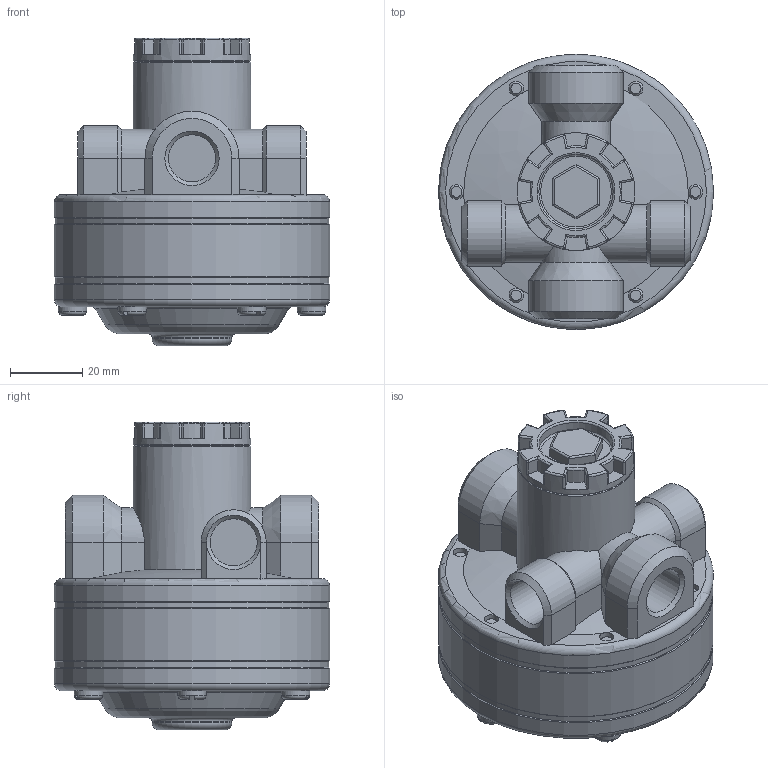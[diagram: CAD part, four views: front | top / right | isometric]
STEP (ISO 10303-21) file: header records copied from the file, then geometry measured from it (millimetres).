
FILE_DESCRIPTION(/* description */ (''),/* implementation_level */ '2;1');
FILE_NAME(/* name */ 'U:/AirCom-Produktdokumentation/Volumenstrombooster/R119-J/Zeichnungen/CAD-Aircom/3D/B-R119-02J.step',/* time_stamp */ '2019-05-06T08:50:54+02:00',/* author */ ('fschroers'),/* organization */ (''),/* preprocessor_version */ 'ST-DEVELOPER v18',/* originating_system */ 'Autodesk Translation Framework v8.2.0.1029',/* authorisation */ '');
FILE_SCHEMA (('AUTOMOTIVE_DESIGN { 1 0 10303 214 3 1 1 }'));
Length unit declared in the file: millimetre
Products named in the file (5): B-R119-02J; B-R119-02x; _SFS FN 301 111186 Flachkopfschraube DIN 85 Stahl 4; Bodenschraube; B-R119-02x_1
Assembly tree (9 placements, depth 3):
  B-R119-02J
    B-R119-02x
    _SFS FN 301 111186 Flachkopfschraube DIN 85 Stahl 4  x6
    Bodenschraube
      B-R119-02x_1
Bounding box: 76 x 76 x 85 mm (x, y, z)
Volume: 214379.8 mm3; surface area: 68552.4 mm2
Topology: 12 solids, 12 shells, 337 faces, 813 edges, 507 vertices
Faces by surface type: plane 133, cylinder 110, cone 38, torus 36, sphere 16, bspline 4
Full cylindrical faces by diameter (mm): 3.141 x6, 4 x36, 8.5 x1, 13 x4, 20.5 x1, 22 x1, 32.5 x2, 75.5 x2, 76 x3
Entity records: 8360 total; most frequent: CARTESIAN_POINT 1758, DIRECTION 1451, ORIENTED_EDGE 1276, EDGE_CURVE 638, AXIS2_PLACEMENT_3D 592, VERTEX_POINT 387, EDGE_LOOP 329, CIRCLE 307
